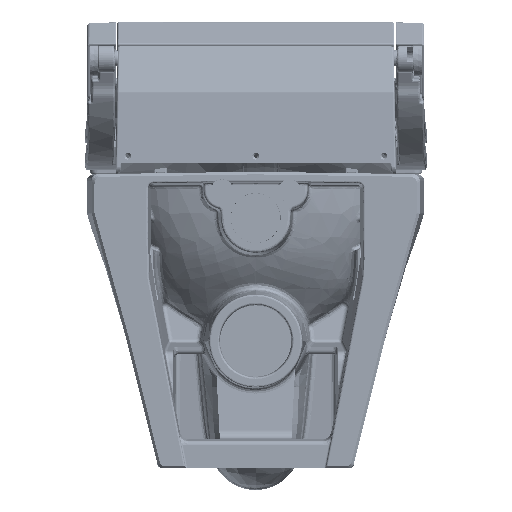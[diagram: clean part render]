
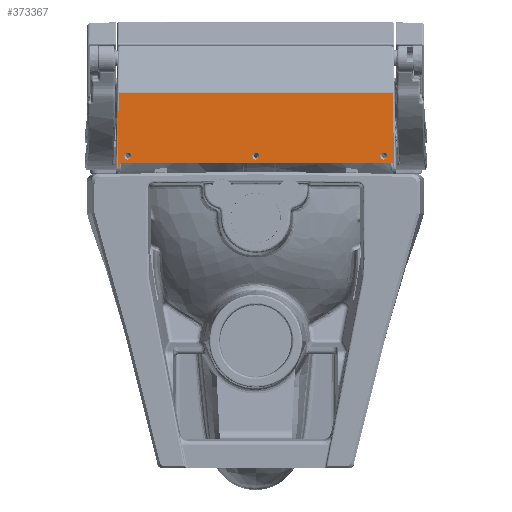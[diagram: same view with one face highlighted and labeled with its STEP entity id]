
A CAD part, left-side view. The second image highlights one B-rep face of the part: STEP entity #373367.
In plain terms, the highlighted planar face has unit normal (-0.999, 0.001, 0.035) as drawn and (0, 0.035, -0.999) by its records, which use the part's own axes.
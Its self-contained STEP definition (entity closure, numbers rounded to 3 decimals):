
#358438=CARTESIAN_POINT('',(149.42,8.259,-15.721));
#358439=VERTEX_POINT('',#358438);
#358447=CARTESIAN_POINT('',(150.855,8.279,-15.721));
#358448=VERTEX_POINT('',#358447);
#358449=CARTESIAN_POINT('',(154.294,8.328,-15.719));
#358450=CARTESIAN_POINT('',(-446.653,-0.253,-16.019));
#358451=CARTESIAN_POINT('',(154.228,12.117,-15.587));
#358459=(BOUNDED_CURVE()B_SPLINE_CURVE(2,(#358449,#358450,#358451),.UNSPECIFIED.,.F.,.U.)B_SPLINE_CURVE_WITH_KNOTS((3,3),(0.0,59.552),.UNSPECIFIED.)CURVE()GEOMETRIC_REPRESENTATION_ITEM()RATIONAL_B_SPLINE_CURVE((1.0,0.982,1.0))REPRESENTATION_ITEM(''));
#358460=EDGE_CURVE('',#358448,#358439,#358459,.T.);
#358504=CARTESIAN_POINT('',(-150.854,8.28,-15.721));
#358505=VERTEX_POINT('',#358504);
#360500=CARTESIAN_POINT('',(-150.435,89.686,-12.878));
#360501=VERTEX_POINT('',#360500);
#360511=CARTESIAN_POINT('',(-151.856,8.28,-15.721));
#360512=VERTEX_POINT('',#360511);
#360513=CARTESIAN_POINT('',(-151.856,8.28,-15.72));
#360514=DIRECTION('',(0.017,0.999,0.035));
#360515=VECTOR('',#360514,81.469);
#360516=LINE('',#360513,#360515);
#360517=EDGE_CURVE('',#360512,#360501,#360516,.T.);
#362694=CARTESIAN_POINT('',(150.435,89.686,-12.878));
#362695=VERTEX_POINT('',#362694);
#362711=CARTESIAN_POINT('',(151.856,8.279,-15.72));
#362712=VERTEX_POINT('',#362711);
#362732=CARTESIAN_POINT('',(150.435,89.686,-12.878));
#362733=DIRECTION('',(0.017,-0.999,-0.035));
#362734=VECTOR('',#362733,81.469);
#362735=LINE('',#362732,#362734);
#362736=EDGE_CURVE('',#362695,#362712,#362735,.T.);
#362929=CARTESIAN_POINT('',(144.25,20.,-15.311));
#362930=VERTEX_POINT('',#362929);
#362937=CARTESIAN_POINT('',(136.75,20.,-15.311));
#362938=VERTEX_POINT('',#362937);
#362939=CARTESIAN_POINT('',(140.5,20.,-15.311));
#362940=DIRECTION('',(0.0,0.035,-0.999));
#362941=DIRECTION('',(0.,0.999,0.035));
#362942=AXIS2_PLACEMENT_3D('',#362939,#362940,#362941);
#362943=ELLIPSE('',#362942,3.752,3.75);
#362944=EDGE_CURVE('',#362930,#362938,#362943,.T.);
#362962=CARTESIAN_POINT('',(140.5,20.,-15.311));
#362963=DIRECTION('',(0.,0.035,-0.999));
#362964=DIRECTION('',(0.,-0.999,-0.035));
#362965=AXIS2_PLACEMENT_3D('',#362962,#362963,#362964);
#362966=ELLIPSE('',#362965,3.752,3.75);
#362967=EDGE_CURVE('',#362938,#362930,#362966,.T.);
#366022=CARTESIAN_POINT('',(151.856,8.279,-15.72));
#366023=DIRECTION('',(-1.0,0.0,0.0));
#366024=VECTOR('',#366023,1.001);
#366025=LINE('',#366022,#366024);
#366026=EDGE_CURVE('',#362712,#358448,#366025,.T.);
#366149=CARTESIAN_POINT('',(-150.855,8.28,-15.721));
#366150=DIRECTION('',(-1.0,0.0,0.0));
#366151=VECTOR('',#366150,1.002);
#366152=LINE('',#366149,#366151);
#366153=EDGE_CURVE('',#358505,#360512,#366152,.T.);
#366572=CARTESIAN_POINT('',(-144.25,20.,-15.311));
#366573=VERTEX_POINT('',#366572);
#366580=CARTESIAN_POINT('',(-136.75,20.,-15.311));
#366581=VERTEX_POINT('',#366580);
#366582=CARTESIAN_POINT('',(-140.5,20.,-15.311));
#366583=DIRECTION('',(0.,0.035,-0.999));
#366584=DIRECTION('',(0.,-0.999,-0.035));
#366585=AXIS2_PLACEMENT_3D('',#366582,#366583,#366584);
#366586=ELLIPSE('',#366585,3.752,3.75);
#366587=EDGE_CURVE('',#366573,#366581,#366586,.T.);
#366605=CARTESIAN_POINT('',(-140.5,20.,-15.311));
#366606=DIRECTION('',(0.,0.035,-0.999));
#366607=DIRECTION('',(0.,0.999,0.035));
#366608=AXIS2_PLACEMENT_3D('',#366605,#366606,#366607);
#366609=ELLIPSE('',#366608,3.752,3.75);
#366610=EDGE_CURVE('',#366581,#366573,#366609,.T.);
#366806=CARTESIAN_POINT('',(-3.75,20.,-15.311));
#366807=VERTEX_POINT('',#366806);
#366814=CARTESIAN_POINT('',(3.75,20.,-15.311));
#366815=VERTEX_POINT('',#366814);
#366816=CARTESIAN_POINT('',(0.,20.,-15.311));
#366817=DIRECTION('',(0.0,0.035,-0.999));
#366818=DIRECTION('',(0.,-0.999,-0.035));
#366819=AXIS2_PLACEMENT_3D('',#366816,#366817,#366818);
#366820=ELLIPSE('',#366819,3.752,3.75);
#366821=EDGE_CURVE('',#366807,#366815,#366820,.T.);
#366839=CARTESIAN_POINT('',(0.0,20.,-15.311));
#366840=DIRECTION('',(0.,0.035,-0.999));
#366841=DIRECTION('',(0.,0.999,0.035));
#366842=AXIS2_PLACEMENT_3D('',#366839,#366840,#366841);
#366843=ELLIPSE('',#366842,3.752,3.75);
#366844=EDGE_CURVE('',#366815,#366807,#366843,.T.);
#371110=CARTESIAN_POINT('',(-150.79,12.,-15.591));
#371111=VERTEX_POINT('',#371110);
#371112=CARTESIAN_POINT('',(-150.79,12.,-15.591));
#371113=DIRECTION('',(-0.017,-0.999,-0.035));
#371114=VECTOR('',#371113,3.723);
#371115=LINE('',#371112,#371114);
#371116=EDGE_CURVE('',#371111,#358505,#371115,.T.);
#371118=CARTESIAN_POINT('',(-147.573,12.,-15.589));
#371119=VERTEX_POINT('',#371118);
#371120=CARTESIAN_POINT('',(-147.573,12.,-15.589));
#371121=DIRECTION('',(-1.,0.,-0.001));
#371122=VECTOR('',#371121,3.217);
#371123=LINE('',#371120,#371122);
#371124=EDGE_CURVE('',#371119,#371111,#371123,.T.);
#373146=CARTESIAN_POINT('',(-150.435,89.686,-12.878));
#373147=DIRECTION('',(1.0,0.0,0.0));
#373148=VECTOR('',#373147,300.871);
#373149=LINE('',#373146,#373148);
#373150=EDGE_CURVE('',#360501,#362695,#373149,.T.);
#373311=CARTESIAN_POINT('',(0.0,6.63,-15.778));
#373312=DIRECTION('',(0.0,-0.035,0.999));
#373313=DIRECTION('',(1.0,0.0,0.0));
#373314=AXIS2_PLACEMENT_3D('',#373311,#373312,#373313);
#373315=PLANE('',#373314);
#373316=ORIENTED_EDGE('',*,*,#371124,.T.);
#373317=ORIENTED_EDGE('',*,*,#371116,.T.);
#373318=ORIENTED_EDGE('',*,*,#366153,.T.);
#373319=ORIENTED_EDGE('',*,*,#360517,.T.);
#373320=ORIENTED_EDGE('',*,*,#373150,.T.);
#373321=ORIENTED_EDGE('',*,*,#362736,.T.);
#373322=ORIENTED_EDGE('',*,*,#366026,.T.);
#373323=ORIENTED_EDGE('',*,*,#358460,.T.);
#373324=CARTESIAN_POINT('',(149.328,10.965,-15.627));
#373325=VERTEX_POINT('',#373324);
#373326=CARTESIAN_POINT('',(149.328,10.965,-15.627));
#373327=DIRECTION('',(0.035,-0.999,-0.035));
#373328=VECTOR('',#373327,2.71);
#373329=LINE('',#373326,#373328);
#373330=EDGE_CURVE('',#373325,#358439,#373329,.T.);
#373331=ORIENTED_EDGE('',*,*,#373330,.F.);
#373332=CARTESIAN_POINT('',(147.574,12.,-15.591));
#373333=VERTEX_POINT('',#373332);
#373334=CARTESIAN_POINT('',(147.574,12.,-15.591));
#373335=CARTESIAN_POINT('',(147.738,12.,-15.591));
#373336=CARTESIAN_POINT('',(147.901,11.969,-15.592));
#373337=CARTESIAN_POINT('',(148.231,11.854,-15.596));
#373338=CARTESIAN_POINT('',(148.394,11.766,-15.599));
#373339=CARTESIAN_POINT('',(148.892,11.424,-15.611));
#373340=CARTESIAN_POINT('',(149.194,11.097,-15.622));
#373341=CARTESIAN_POINT('',(149.314,10.979,-15.626));
#373342=CARTESIAN_POINT('',(149.317,10.975,-15.626));
#373343=CARTESIAN_POINT('',(149.328,10.965,-15.627));
#373344=B_SPLINE_CURVE_WITH_KNOTS('',3,(#373334,#373335,#373336,#373337,#373338,#373339,#373340,#373341,#373342,#373343),.UNSPECIFIED.,.F.,.U.,(4,2,2,2,4),(0.,0.049,0.105,0.229,0.236),.UNSPECIFIED.);
#373345=EDGE_CURVE('',#373333,#373325,#373344,.T.);
#373346=ORIENTED_EDGE('',*,*,#373345,.F.);
#373347=CARTESIAN_POINT('',(-147.573,12.,-15.591));
#373348=DIRECTION('',(1.0,0.0,0.0));
#373349=VECTOR('',#373348,295.147);
#373350=LINE('',#373347,#373349);
#373351=EDGE_CURVE('',#371119,#373333,#373350,.T.);
#373352=ORIENTED_EDGE('',*,*,#373351,.F.);
#373353=EDGE_LOOP('',(#373316,#373317,#373318,#373319,#373320,#373321,#373322,#373323,#373331,#373346,#373352));
#373354=FACE_OUTER_BOUND('',#373353,.T.);
#373355=ORIENTED_EDGE('',*,*,#362944,.F.);
#373356=ORIENTED_EDGE('',*,*,#362967,.F.);
#373357=EDGE_LOOP('',(#373355,#373356));
#373358=FACE_BOUND('',#373357,.T.);
#373359=ORIENTED_EDGE('',*,*,#366844,.F.);
#373360=ORIENTED_EDGE('',*,*,#366821,.F.);
#373361=EDGE_LOOP('',(#373359,#373360));
#373362=FACE_BOUND('',#373361,.T.);
#373363=ORIENTED_EDGE('',*,*,#366610,.F.);
#373364=ORIENTED_EDGE('',*,*,#366587,.F.);
#373365=EDGE_LOOP('',(#373363,#373364));
#373366=FACE_BOUND('',#373365,.T.);
#373367=ADVANCED_FACE('',(#373354,#373358,#373362,#373366),#373315,.F.);
